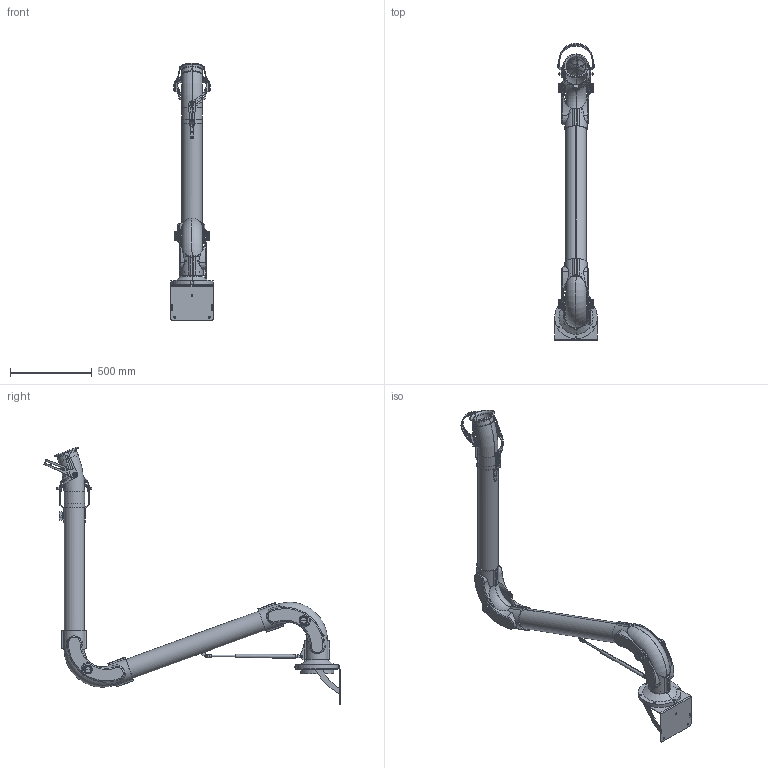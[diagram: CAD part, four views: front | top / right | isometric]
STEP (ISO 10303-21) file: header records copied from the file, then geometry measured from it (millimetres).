
FILE_DESCRIPTION((''),'2;1');
FILE_NAME('124971','2019-03-11T10:31:27',('Gustav Stenberg'),(''),'CREO PARAMETRIC BY PTC INC, 2018260','CREO PARAMETRIC BY PTC INC, 2018260','');
FILE_SCHEMA(('AUTOMOTIVE_DESIGN { 1 0 10303 214 1 1 1 1 }'));
Length unit declared in the file: millimetre
Products named in the file (43): LIGHT_SWIVEL_125_AF0; 126193; G_PRX_SVIVEL_SPRINGMOUNT; 138751; 124020; 124021; 105-5481_1; 101156_1; 124025_AF6; 124025_AF7; 124025_AF8; 124025_AF9; 124881; 124890; 124865; 125076; 124873; 124947; 126055_AF3; 124960_AF1; 142700; 142472; 199-808-125; 142440; 142441; 142490; 142857; 128231; 126055_AF4; 143145; 143004; 100-5835; 142480; 126055_AF5; 129694; G_GAS_SPRING_FORK_MOUNT; 126093; GAS_SPRING_ROD_BANSBACH; 102811-REF; 124366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
Assembly tree (61 placements, depth 5):
  124971
    138751
      126193
        LIGHT_SWIVEL_125_AF0
      G_PRX_SVIVEL_SPRINGMOUNT
    124025_AF6
      124020
      124021
      101156_1
        105-5481_1
    124025_AF7
      124020
      124021
      101156_1
        105-5481_1
    124960_AF1
      124025_AF8
        124020
        124021
        101156_1
          105-5481_1
      124025_AF9
        124020
        124021
        101156_1
          105-5481_1
      124881
      124947
        124890
        124873
          124865
          125076
      126055_AF3
    142480
      142700  x2
      142472  x2
      142857
        199-808-125
        142440
        142441
        142490
      128231
      126055_AF4
      143145  x4
      143004  x4
      100-5835
    126055_AF5
    126093
      129694
      G_GAS_SPRING_FORK_MOUNT
    102811-REF
      GAS_SPRING_ROD_BANSBACH
      G_GAS_SPRING_FORK_MOUNT
    124365
      124366
      123045  x2
Bounding box: 260 x 1811.5 x 1572.84 mm (x, y, z)
Volume: 10205719.2 mm3; surface area: 3821682.5 mm2
Topology: 46 solids, 46 shells, 1167 faces, 2907 edges, 1889 vertices
Faces by surface type: plane 468, cylinder 427, cone 112, bspline 94, torus 42, sphere 24
Entity records: 36303 total; most frequent: CARTESIAN_POINT 9874, DIRECTION 4082, ORIENTED_EDGE 3720, EDGE_CURVE 1860, AXIS2_PLACEMENT_3D 1559, PRESENTATION_STYLE_ASSIGNMENT 1451, STYLED_ITEM 1451, VERTEX_POINT 1161
